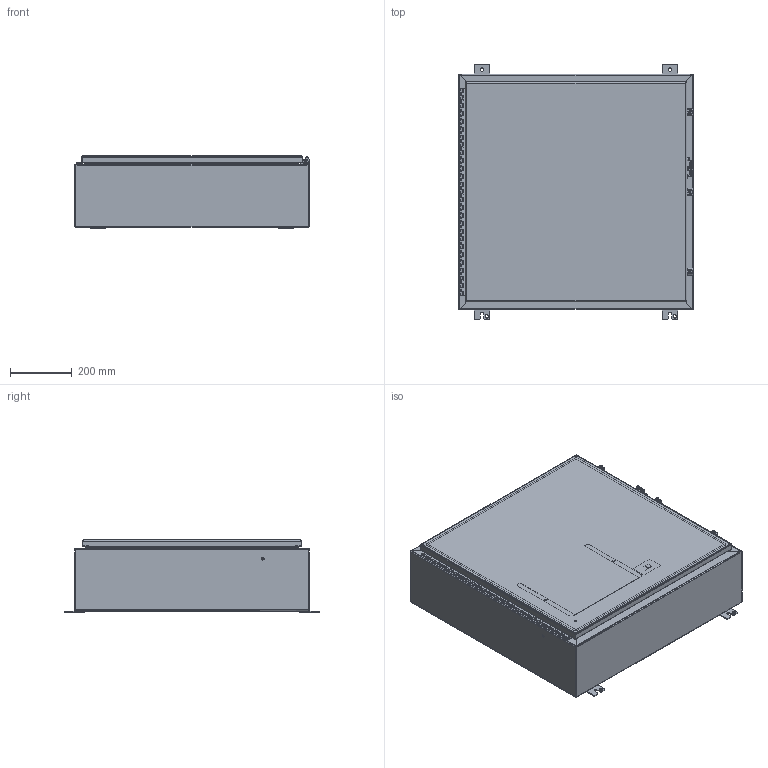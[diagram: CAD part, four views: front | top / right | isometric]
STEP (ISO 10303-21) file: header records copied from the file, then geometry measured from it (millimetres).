
FILE_DESCRIPTION((''),'2;1');
FILE_NAME('MODEL-303_ASM','2026-04-06T14:47:57',('ChadS'),('SAGINAW CONTROL & ENGINEERING'),'CREO PARAMETRIC BY PTC INC, 2021284','CREO PARAMETRIC BY PTC INC, 2021284','');
FILE_SCHEMA(('AUTOMOTIVE_DESIGN { 1 0 10303 214 1 1 1 1 }'));
Length unit declared in the file: inch
Products named in the file (30): MODEL-303-BDY; MODEL-303-TP; MODEL-303-BTM; MODEL-303-DR; 100837; 100882; 111267; 125597; 118920_DR; 118920_PIN; 118920_BX; 118920_STUD; 118920_ASM; 100897; MODEL-303-DOOR-GASKET; 128600; 102483; MODEL-303-DOOR-ASSY_ASM; 102211; 101653; 121452; 120131_BASE; 120131_CLAMP; 120131_SCREW; 120131_CLOSED_ASM; 120134; SUBPANEL; 100904; SUBPANEL-SUBASSEMBLY_ASM; MODEL-303_ASM
Assembly tree (56 placements, depth 4):
  MODEL-303_ASM
    MODEL-303-BDY
    MODEL-303-TP
    MODEL-303-BTM
    MODEL-303-DOOR-ASSY_ASM
      MODEL-303-DR
      100837  x3
      100882  x2
      111267
      125597
      118920_ASM
        118920_DR
        118920_PIN
        118920_BX
        118920_STUD  x5
      100897  x5
      MODEL-303-DOOR-GASKET
      128600
      102483
    102211  x4
    100837
    101653  x4
    121452
    120131_CLOSED_ASM  x3
      120131_BASE
      120131_CLAMP
      120131_SCREW
    100882  x4
    120134
    SUBPANEL-SUBASSEMBLY_ASM
      SUBPANEL
      100904  x4
Bounding box: 762 x 825.5 x 233.88 mm (x, y, z)
Volume: 5856140.5 mm3; surface area: 5330277.5 mm2
Topology: 55 solids, 55 shells, 4190 faces, 10940 edges, 6905 vertices
Faces by surface type: plane 1714, bspline 1107, cylinder 926, torus 232, sphere 111, cone 100
Entity records: 100607 total; most frequent: CARTESIAN_POINT 31341, ORIENTED_EDGE 10318, DIRECTION 9381, PRESENTATION_STYLE_ASSIGNMENT 5290, STYLED_ITEM 5288, CURVE_STYLE 5159, EDGE_CURVE 5159, VERTEX_POINT 3256
